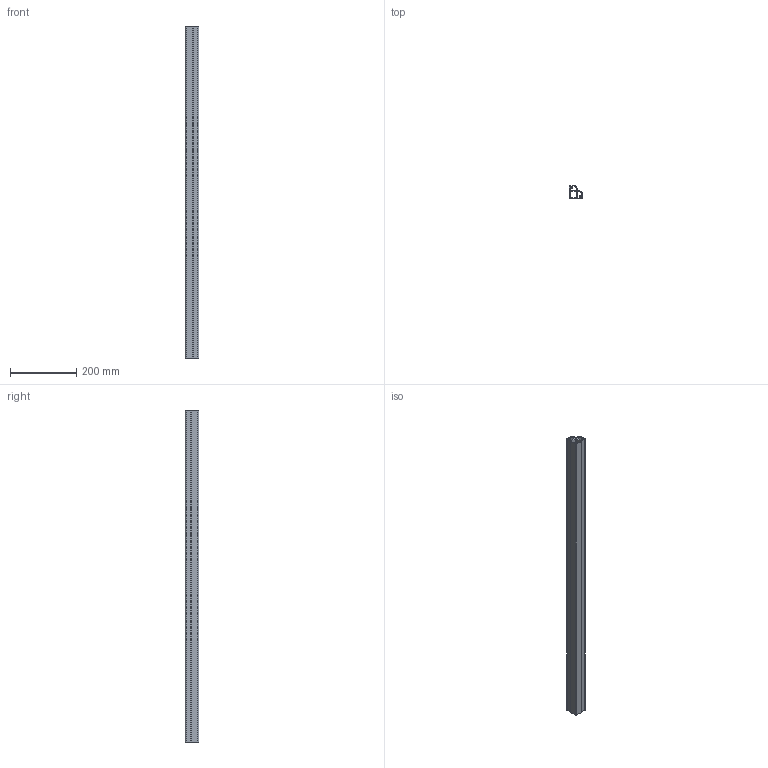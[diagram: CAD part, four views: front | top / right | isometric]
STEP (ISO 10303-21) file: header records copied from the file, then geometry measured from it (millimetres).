
FILE_DESCRIPTION (( 'STEP AP214' ), '1' );
FILE_NAME ('A40815.step', '2024-12-03T16:13:21', ( '' ), ( '' ), 'SwSTEP 2.0', 'SolidWorks 2023', '' );
FILE_SCHEMA (( 'AUTOMOTIVE_DESIGN' ));
Length unit declared in the file: millimetre
Products named in the file (1): A40815
Bounding box: 40 x 40 x 1000 mm (x, y, z)
Volume: 354506.1 mm3; surface area: 358550.3 mm2
Topology: 1 solids, 1 shells, 57 faces, 165 edges, 110 vertices
Faces by surface type: cylinder 29, plane 28
Entity records: 1924 total; most frequent: DIRECTION 339, CARTESIAN_POINT 333, ORIENTED_EDGE 330, EDGE_CURVE 165, AXIS2_PLACEMENT_3D 116, VERTEX_POINT 110, LINE 107, VECTOR 107
